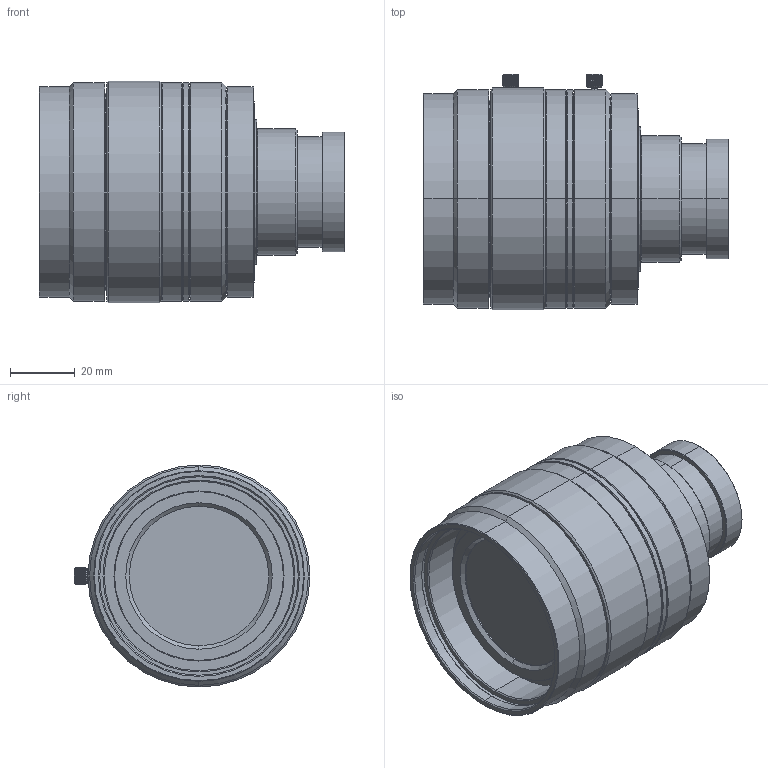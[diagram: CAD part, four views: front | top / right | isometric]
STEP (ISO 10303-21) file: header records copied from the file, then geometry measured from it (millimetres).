
FILE_DESCRIPTION (( 'STEP AP203' ), '1' );
FILE_NAME ('VS-VNC5028_Drawing_M2222A-A00101.STEP', '2025-07-22T23:59:17', ( '' ), ( '' ), 'SwSTEP 2.0', 'SolidWorks 2024', '' );
FILE_SCHEMA (( 'CONFIG_CONTROL_DESIGN' ));
Length unit declared in the file: millimetre
Products named in the file (1): VS-VNC5028_Drawing_M2222A-A00101
Bounding box: 94.3 x 72.8 x 68.5 mm (x, y, z)
Volume: 223617.3 mm3; surface area: 34639.7 mm2
Topology: 3 solids, 3 shells, 314 faces, 780 edges, 496 vertices
Faces by surface type: plane 134, cylinder 104, cone 76
Entity records: 9597 total; most frequent: CARTESIAN_POINT 2215, ORIENTED_EDGE 1560, DIRECTION 1490, EDGE_CURVE 780, AXIS2_PLACEMENT_3D 603, VERTEX_POINT 496, EDGE_LOOP 338, ADVANCED_FACE 314
